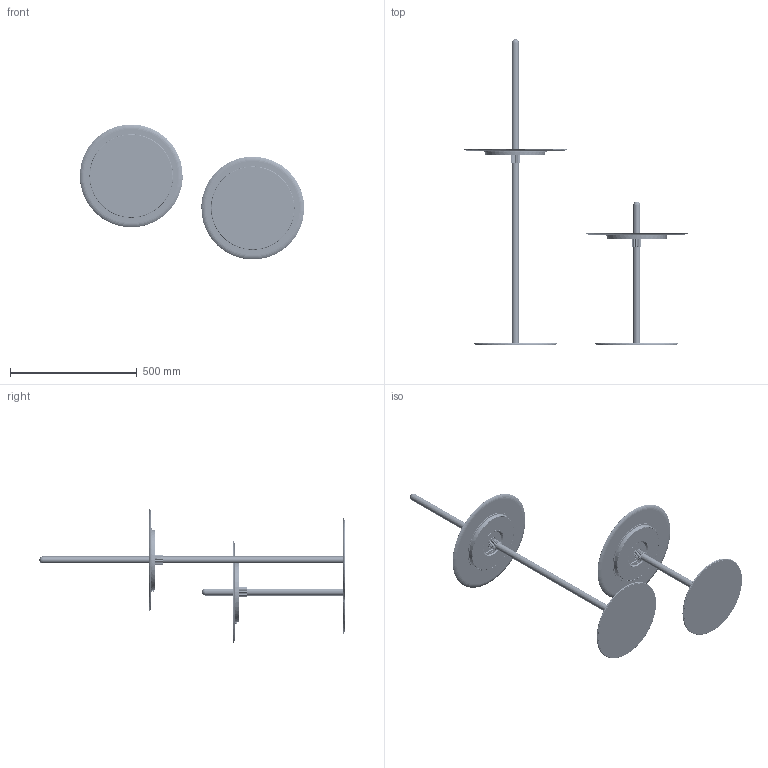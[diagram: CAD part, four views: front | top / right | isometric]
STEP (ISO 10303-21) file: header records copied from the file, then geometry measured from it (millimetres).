
FILE_DESCRIPTION (( 'STEP AP214' ), '1' );
FILE_NAME ('Pablo Designs - Nivel Pedestal - Share CAD - 120122.STEP', '2022-12-01T22:54:35', ( '' ), ( '' ), 'SwSTEP 2.0', 'SolidWorks 2019', '' );
FILE_SCHEMA (( 'AUTOMOTIVE_DESIGN' ));
Length unit declared in the file: inch
Products named in the file (35): CAR-0606 Nivel, Battery 5000mA 6060100.STEP; CAR-0605  Nivel__Driver Board__A_O.STEP; CAR-0706 NIVEL, Touch PCB Tape.STEP; CAR-0401 Nivel, Head Collar.STEP; CAR-0802 Carousel, Magnet_1.STEP; CAR-0209 Carousel, Lens_1.STEP; CAR-0204 Carousel, Top Cap_1.STEP; CAR-0803 Plastic Washer WS7-3.6-3.2_1.STEP; CAR-0502 Carousel, PMMA LGP_1.STEP; Niv_l, Floor, Post_1200mm.STEP; CAR-0207 Nivel, Induction Cap.STEP; EC-0806 M3x4 ________________________DAJ00741___1.STEP; TLA-0803 M2x3 ___________________1.STEP; CAR-0505 Carousel, Side Reflector_1.STEP; Nivel pedestal - SM; CAR-0503 Carousel, Diffuser Film_1.STEP; Niv_l, Base, V5_O13in x 5mm x F2mm.STEP; CAR-0601 Carousel, Flexible LED Board_1.STEP; 95596A610_TAPPING INSERTS FOR SOFTWOOD_95596A610.STEP; CAR-0208 Nivel, Tension Sleeve.STEP; CAR-0301 Carousel, Heatsink_1.STEP; Niv_l, Steel Tray, 16in, V4_O16in.STEP; TLA-0810 ST2.9 X 9.5 ____________________ (GB-T 846-1985)_1.STEP; CAR-0705 Nivel, Battery tape.STEP; Pablo Designs - Nivel Pedestal - Share CAD - 120122; CAR-0701 Carousel, LED Thermal Tape_1.STEP; Niv_l, Base, Pad, V1_O13.STEP; CAR-0501 Carousel, Reflector_1.STEP; Nivél, Pedestal, V14.STEP; CAR-0801 Carousel, Indicator Lens_1.STEP; PSA-0804 M3X5________________.STEP; CAR-0604 Nivel, Touch Board.STEP; NIVEL, Head Assy 20220121.STEP; CAR-0402 Nivel, Tension.STEP; CAR-0203 Carousel, Main Cover_NIVEL.STEP
Assembly tree (52 placements, depth 4):
  Pablo Designs - Nivel Pedestal - Share CAD - 120122
    Nivél, Pedestal, V14.STEP
      NIVEL, Head Assy 20220121.STEP
        CAR-0203 Carousel, Main Cover_NIVEL.STEP
        CAR-0204 Carousel, Top Cap_1.STEP
        CAR-0207 Nivel, Induction Cap.STEP
        CAR-0208 Nivel, Tension Sleeve.STEP
        CAR-0301 Carousel, Heatsink_1.STEP
        CAR-0401 Nivel, Head Collar.STEP
        CAR-0402 Nivel, Tension.STEP
        CAR-0501 Carousel, Reflector_1.STEP
        CAR-0502 Carousel, PMMA LGP_1.STEP
        CAR-0503 Carousel, Diffuser Film_1.STEP
        CAR-0209 Carousel, Lens_1.STEP
        CAR-0505 Carousel, Side Reflector_1.STEP
        CAR-0601 Carousel, Flexible LED Board_1.STEP
        CAR-0604 Nivel, Touch Board.STEP
        CAR-0605  Nivel__Driver Board__A_O.STEP
        CAR-0606 Nivel, Battery 5000mA 6060100.STEP  x3
        CAR-0701 Carousel, LED Thermal Tape_1.STEP
        CAR-0706 NIVEL, Touch PCB Tape.STEP
        CAR-0705 Nivel, Battery tape.STEP  x3
        CAR-0801 Carousel, Indicator Lens_1.STEP
        CAR-0802 Carousel, Magnet_1.STEP  x4
        CAR-0803 Plastic Washer WS7-3.6-3.2_1.STEP  x2
        EC-0806 M3x4 ________________________DAJ00741___1.STEP  x3
        TLA-0803 M2x3 ___________________1.STEP  x2
        PSA-0804 M3X5________________.STEP  x3
        TLA-0810 ST2.9 X 9.5 ____________________ (GB-T 846-1985)_1.STEP  x6
      Niv_l, Base, V5_O13in x 5mm x F2mm.STEP
      Niv_l, Base, Pad, V1_O13.STEP
      Niv_l, Floor, Post_1200mm.STEP
      95596A610_TAPPING INSERTS FOR SOFTWOOD_95596A610.STEP
      Niv_l, Steel Tray, 16in, V4_O16in.STEP
    Nivel pedestal - SM
Bounding box: 885.19 x 1206 x 532.46 mm (x, y, z)
Volume: 3157504.6 mm3; surface area: 2223426 mm2
Topology: 65 solids, 65 shells, 9676 faces, 26004 edges, 16879 vertices
Faces by surface type: plane 5338, cylinder 1988, bspline 1196, cone 1018, torus 128, sphere 8
Entity records: 339624 total; most frequent: CARTESIAN_POINT 158400, ORIENTED_EDGE 35242, DIRECTION 28109, EDGE_CURVE 17621, VERTEX_POINT 11527, AXIS2_PLACEMENT_3D 9711, VECTOR 8687, LINE 8687
